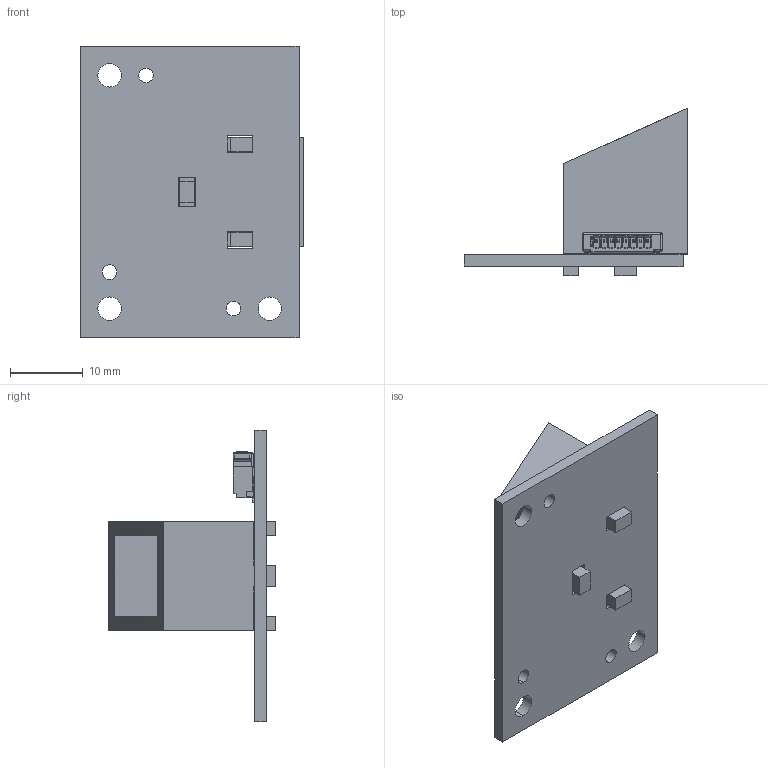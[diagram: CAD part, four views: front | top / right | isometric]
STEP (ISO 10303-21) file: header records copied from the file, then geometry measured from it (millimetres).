
FILE_DESCRIPTION((''),'2;1');
FILE_NAME('SIDE_LED_PCB_ASSY_ASM','2020-08-11T',('G6003023'),(''),'PRO/ENGINEER BY PARAMETRIC TECHNOLOGY CORPORATION, 2013150','PRO/ENGINEER BY PARAMETRIC TECHNOLOGY CORPORATION, 2013150','');
FILE_SCHEMA(('CONFIG_CONTROL_DESIGN'));
Length unit declared in the file: millimetre
Products named in the file (6): SIDE_LED_PCB; LED_EVERLIGHT_R6GHY5C_1_1_1; HS6208E-LH_3D; LIGHT_PIPE_SIDE_LED_16; S-87214-0800; SIDE_LED_PCB_ASSY_ASM
Assembly tree (6 placements, depth 2):
  SIDE_LED_PCB_ASSY_ASM
    SIDE_LED_PCB
    LED_EVERLIGHT_R6GHY5C_1_1_1  x2
    HS6208E-LH_3D
    LIGHT_PIPE_SIDE_LED_16
    S-87214-0800
Bounding box: 30.63 x 23 x 40 mm (x, y, z)
Volume: 3817 mm3; surface area: 5429 mm2
Topology: 6 solids, 6 shells, 1211 faces, 3420 edges, 2231 vertices
Faces by surface type: plane 994, cylinder 211, sphere 6
Entity records: 38130 total; most frequent: CARTESIAN_POINT 6794, ORIENTED_EDGE 6704, DIRECTION 6159, EDGE_CURVE 3352, VECTOR 2939, LINE 2939, VERTEX_POINT 2187, AXIS2_PLACEMENT_3D 1610
